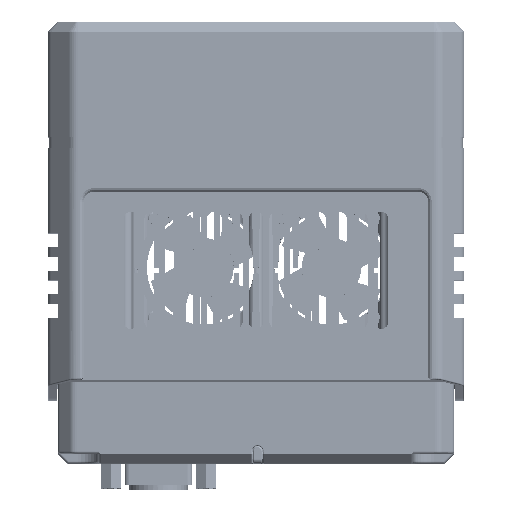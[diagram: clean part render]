
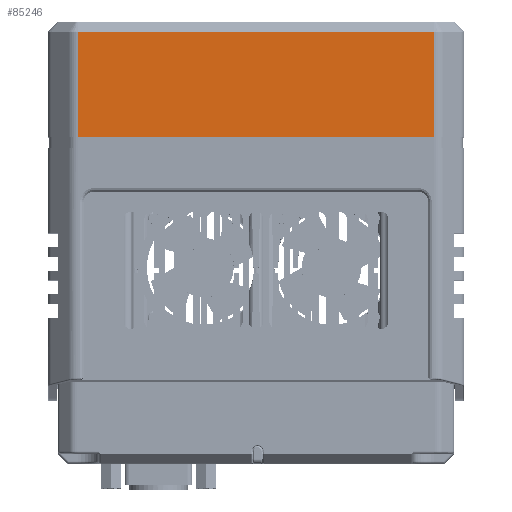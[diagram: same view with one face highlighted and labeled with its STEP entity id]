
A CAD part, top view. The second image highlights one B-rep face of the part: STEP entity #85246.
In plain terms, the highlighted planar face has unit normal (0, 0, 1).
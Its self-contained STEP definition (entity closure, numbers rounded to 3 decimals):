
#26590=DIRECTION('',(0.,1.,0.));
#26591=VECTOR('',#26590,21.21);
#26592=CARTESIAN_POINT('',(257.127,-100.904,42.));
#26593=LINE('',#26592,#26591);
#26594=DIRECTION('',(1.,0.,0.));
#26595=VECTOR('',#26594,71.929);
#26596=CARTESIAN_POINT('',(185.198,-100.904,42.));
#26597=LINE('',#26596,#26595);
#26606=DIRECTION('',(1.,0.,0.));
#26607=VECTOR('',#26606,71.929);
#26608=CARTESIAN_POINT('',(185.198,-79.694,
42.));
#26609=LINE('',#26608,#26607);
#26619=DIRECTION('',(0.,-1.,0.));
#26620=VECTOR('',#26619,21.21);
#26621=CARTESIAN_POINT('',(185.198,-79.694,
42.));
#26622=LINE('',#26621,#26620);
#39261=CARTESIAN_POINT('',(257.127,-100.904,42.));
#39262=VERTEX_POINT('',#39261);
#39263=CARTESIAN_POINT('',(185.198,-100.904,42.));
#39264=VERTEX_POINT('',#39263);
#39365=CARTESIAN_POINT('',(257.127,-79.694,42.));
#39366=VERTEX_POINT('',#39365);
#39367=CARTESIAN_POINT('',(185.198,-79.694,
42.));
#39368=VERTEX_POINT('',#39367);
#85233=CARTESIAN_POINT('',(221.162,-90.299,42.));
#85234=DIRECTION('',(0.,0.,1.));
#85235=DIRECTION('',(1.,0.,0.));
#85236=AXIS2_PLACEMENT_3D('',#85233,#85234,#85235);
#85237=PLANE('',#85236);
#85239=ORIENTED_EDGE('',*,*,#85238,.T.);
#85240=ORIENTED_EDGE('',*,*,#85228,.F.);
#85241=ORIENTED_EDGE('',*,*,#84630,.F.);
#85243=ORIENTED_EDGE('',*,*,#85242,.F.);
#85244=EDGE_LOOP('',(#85239,#85240,#85241,#85243));
#85245=FACE_OUTER_BOUND('',#85244,.F.);
#85246=ADVANCED_FACE('',(#85245),#85237,.T.);
#84630=EDGE_CURVE('',#39264,#39262,#26597,.T.);
#85228=EDGE_CURVE('',#39262,#39366,#26593,.T.);
#85238=EDGE_CURVE('',#39368,#39366,#26609,.T.);
#85242=EDGE_CURVE('',#39368,#39264,#26622,.T.);
